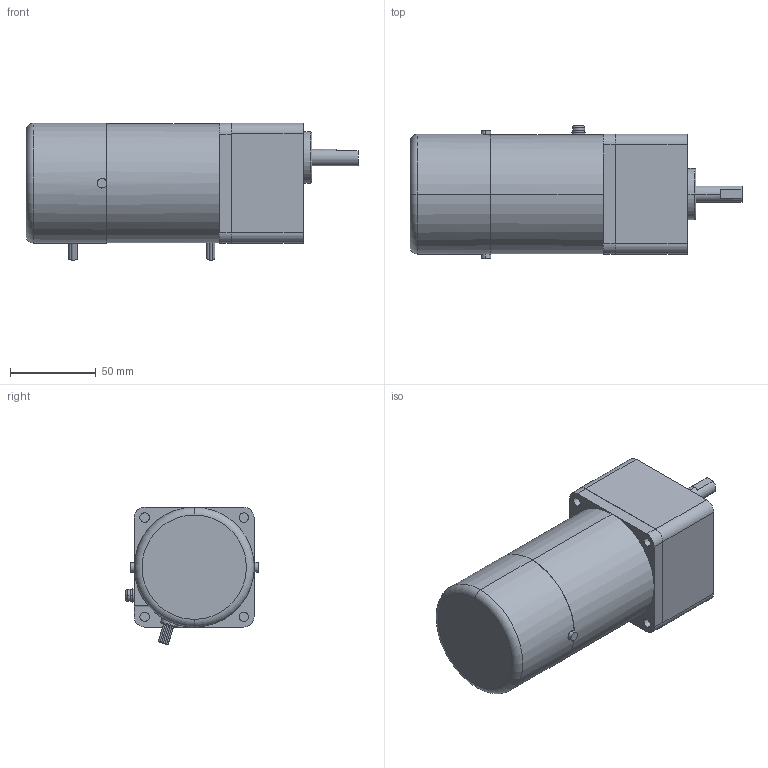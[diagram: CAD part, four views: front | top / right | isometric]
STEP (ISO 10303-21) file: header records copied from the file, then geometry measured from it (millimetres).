
FILE_DESCRIPTION(('starvars output'),'2;1');
FILE_NAME('3RK15GN-AW2MU _ 3GN120SA.stp','14:07:44 2015/05/11',( 'Thomas Industrial Network Germany GmbH'),( 'Thomas Industrial Network Germany GmbH'),'unknown preprocess','ACIS' ,'unknown authorization');
FILE_SCHEMA(('AUTOMOTIVE_DESIGN_CC2 {UNKNOWN IMPLEMENTATION LEVEL}'));
Length unit declared in the file: millimetre
Products named in the file (1): PRODUCT_ID_2006
Bounding box: 194 x 77.4 x 80.26 mm (x, y, z)
Volume: 667489.2 mm3; surface area: 53584.2 mm2
Topology: 1 solids, 1 shells, 141 faces, 326 edges, 211 vertices
Faces by surface type: cylinder 72, plane 59, torus 10
Entity records: 4905 total; most frequent: CARTESIAN_POINT 841, ORIENTED_EDGE 654, DIRECTION 520, EDGE_CURVE 326, VERTEX_POINT 211, AXIS2_PLACEMENT_3D 197, EDGE_LOOP 165, FACE_BOUND 165
